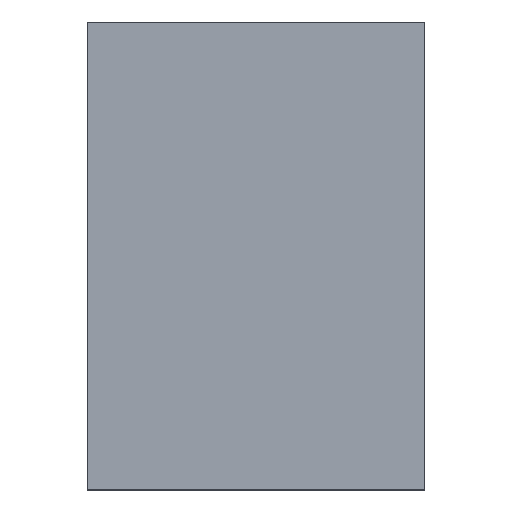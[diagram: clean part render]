
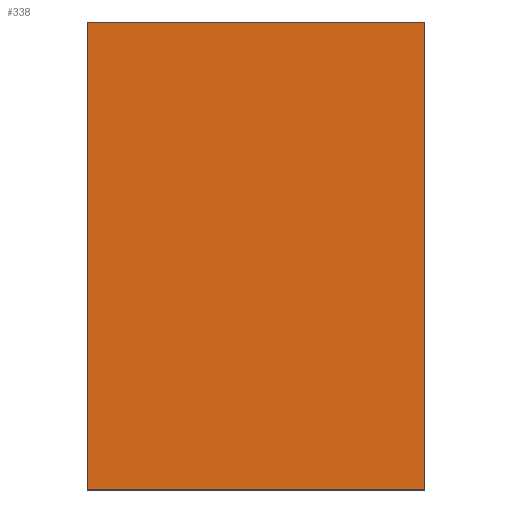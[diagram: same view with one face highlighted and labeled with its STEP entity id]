
A CAD part, top view. The second image highlights one B-rep face of the part: STEP entity #338.
In plain terms, the highlighted planar face has unit normal (0, 0, 1).
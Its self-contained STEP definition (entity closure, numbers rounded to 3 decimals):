
#24 = VERTEX_POINT('',#25);
#25 = CARTESIAN_POINT('',(-42.6,-18.15,16.06));
#32 = PLANE('',#33);
#33 = AXIS2_PLACEMENT_3D('',#34,#35,#36);
#34 = CARTESIAN_POINT('',(-42.6,-18.15,13.57));
#35 = DIRECTION('',(1.,0.,0.));
#36 = DIRECTION('',(0.,0.,1.));
#44 = PLANE('',#45);
#45 = AXIS2_PLACEMENT_3D('',#46,#47,#48);
#46 = CARTESIAN_POINT('',(-42.6,-18.15,13.57));
#47 = DIRECTION('',(0.,1.,0.));
#48 = DIRECTION('',(0.,0.,1.));
#85 = VERTEX_POINT('',#86);
#86 = CARTESIAN_POINT('',(-42.6,0.15,16.06));
#100 = PLANE('',#101);
#101 = AXIS2_PLACEMENT_3D('',#102,#103,#104);
#102 = CARTESIAN_POINT('',(-42.6,0.15,13.57));
#103 = DIRECTION('',(0.,1.,0.));
#104 = DIRECTION('',(0.,0.,1.));
#112 = EDGE_CURVE('',#24,#85,#113,.T.);
#113 = SURFACE_CURVE('',#114,(#118,#125),.PCURVE_S1.);
#114 = LINE('',#115,#116);
#115 = CARTESIAN_POINT('',(-42.6,-18.15,16.06));
#116 = VECTOR('',#117,1.);
#117 = DIRECTION('',(0.,1.,0.));
#118 = PCURVE('',#32,#119);
#119 = DEFINITIONAL_REPRESENTATION('',(#120),#124);
#120 = LINE('',#121,#122);
#121 = CARTESIAN_POINT('',(2.49,0.));
#122 = VECTOR('',#123,1.);
#123 = DIRECTION('',(0.,-1.));
#124 = ( GEOMETRIC_REPRESENTATION_CONTEXT(2) 
PARAMETRIC_REPRESENTATION_CONTEXT() REPRESENTATION_CONTEXT('2D SPACE',''
  ) );
#125 = PCURVE('',#126,#131);
#126 = PLANE('',#127);
#127 = AXIS2_PLACEMENT_3D('',#128,#129,#130);
#128 = CARTESIAN_POINT('',(-42.6,-18.15,16.06));
#129 = DIRECTION('',(0.,0.,1.));
#130 = DIRECTION('',(1.,0.,0.));
#131 = DEFINITIONAL_REPRESENTATION('',(#132),#136);
#132 = LINE('',#133,#134);
#133 = CARTESIAN_POINT('',(0.,0.));
#134 = VECTOR('',#135,1.);
#135 = DIRECTION('',(0.,1.));
#136 = ( GEOMETRIC_REPRESENTATION_CONTEXT(2) 
PARAMETRIC_REPRESENTATION_CONTEXT() REPRESENTATION_CONTEXT('2D SPACE',''
  ) );
#144 = VERTEX_POINT('',#145);
#145 = CARTESIAN_POINT('',(-29.4,-18.15,16.06));
#152 = PLANE('',#153);
#153 = AXIS2_PLACEMENT_3D('',#154,#155,#156);
#154 = CARTESIAN_POINT('',(-29.4,-18.15,13.57));
#155 = DIRECTION('',(1.,0.,0.));
#156 = DIRECTION('',(0.,0.,1.));
#195 = VERTEX_POINT('',#196);
#196 = CARTESIAN_POINT('',(-29.4,0.15,16.06));
#217 = EDGE_CURVE('',#144,#195,#218,.T.);
#218 = SURFACE_CURVE('',#219,(#223,#230),.PCURVE_S1.);
#219 = LINE('',#220,#221);
#220 = CARTESIAN_POINT('',(-29.4,-18.15,16.06));
#221 = VECTOR('',#222,1.);
#222 = DIRECTION('',(0.,1.,0.));
#223 = PCURVE('',#152,#224);
#224 = DEFINITIONAL_REPRESENTATION('',(#225),#229);
#225 = LINE('',#226,#227);
#226 = CARTESIAN_POINT('',(2.49,0.));
#227 = VECTOR('',#228,1.);
#228 = DIRECTION('',(0.,-1.));
#229 = ( GEOMETRIC_REPRESENTATION_CONTEXT(2) 
PARAMETRIC_REPRESENTATION_CONTEXT() REPRESENTATION_CONTEXT('2D SPACE',''
  ) );
#230 = PCURVE('',#126,#231);
#231 = DEFINITIONAL_REPRESENTATION('',(#232),#236);
#232 = LINE('',#233,#234);
#233 = CARTESIAN_POINT('',(13.2,0.));
#234 = VECTOR('',#235,1.);
#235 = DIRECTION('',(0.,1.));
#236 = ( GEOMETRIC_REPRESENTATION_CONTEXT(2) 
PARAMETRIC_REPRESENTATION_CONTEXT() REPRESENTATION_CONTEXT('2D SPACE',''
  ) );
#263 = EDGE_CURVE('',#24,#144,#264,.T.);
#264 = SURFACE_CURVE('',#265,(#269,#276),.PCURVE_S1.);
#265 = LINE('',#266,#267);
#266 = CARTESIAN_POINT('',(-42.6,-18.15,16.06));
#267 = VECTOR('',#268,1.);
#268 = DIRECTION('',(1.,0.,0.));
#269 = PCURVE('',#44,#270);
#270 = DEFINITIONAL_REPRESENTATION('',(#271),#275);
#271 = LINE('',#272,#273);
#272 = CARTESIAN_POINT('',(2.49,0.));
#273 = VECTOR('',#274,1.);
#274 = DIRECTION('',(0.,1.));
#275 = ( GEOMETRIC_REPRESENTATION_CONTEXT(2) 
PARAMETRIC_REPRESENTATION_CONTEXT() REPRESENTATION_CONTEXT('2D SPACE',''
  ) );
#276 = PCURVE('',#126,#277);
#277 = DEFINITIONAL_REPRESENTATION('',(#278),#282);
#278 = LINE('',#279,#280);
#279 = CARTESIAN_POINT('',(0.,0.));
#280 = VECTOR('',#281,1.);
#281 = DIRECTION('',(1.,0.));
#282 = ( GEOMETRIC_REPRESENTATION_CONTEXT(2) 
PARAMETRIC_REPRESENTATION_CONTEXT() REPRESENTATION_CONTEXT('2D SPACE',''
  ) );
#310 = EDGE_CURVE('',#85,#195,#311,.T.);
#311 = SURFACE_CURVE('',#312,(#316,#323),.PCURVE_S1.);
#312 = LINE('',#313,#314);
#313 = CARTESIAN_POINT('',(-42.6,0.15,16.06));
#314 = VECTOR('',#315,1.);
#315 = DIRECTION('',(1.,0.,0.));
#316 = PCURVE('',#100,#317);
#317 = DEFINITIONAL_REPRESENTATION('',(#318),#322);
#318 = LINE('',#319,#320);
#319 = CARTESIAN_POINT('',(2.49,0.));
#320 = VECTOR('',#321,1.);
#321 = DIRECTION('',(0.,1.));
#322 = ( GEOMETRIC_REPRESENTATION_CONTEXT(2) 
PARAMETRIC_REPRESENTATION_CONTEXT() REPRESENTATION_CONTEXT('2D SPACE',''
  ) );
#323 = PCURVE('',#126,#324);
#324 = DEFINITIONAL_REPRESENTATION('',(#325),#329);
#325 = LINE('',#326,#327);
#326 = CARTESIAN_POINT('',(0.,18.3));
#327 = VECTOR('',#328,1.);
#328 = DIRECTION('',(1.,0.));
#329 = ( GEOMETRIC_REPRESENTATION_CONTEXT(2) 
PARAMETRIC_REPRESENTATION_CONTEXT() REPRESENTATION_CONTEXT('2D SPACE',''
  ) );
#338 = ADVANCED_FACE('',(#339),#126,.T.);
#339 = FACE_BOUND('',#340,.T.);
#340 = EDGE_LOOP('',(#341,#342,#343,#344));
#341 = ORIENTED_EDGE('',*,*,#112,.F.);
#342 = ORIENTED_EDGE('',*,*,#263,.T.);
#343 = ORIENTED_EDGE('',*,*,#217,.T.);
#344 = ORIENTED_EDGE('',*,*,#310,.F.);
